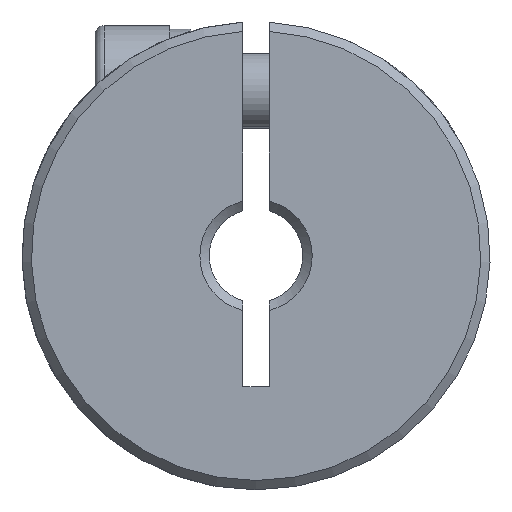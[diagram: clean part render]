
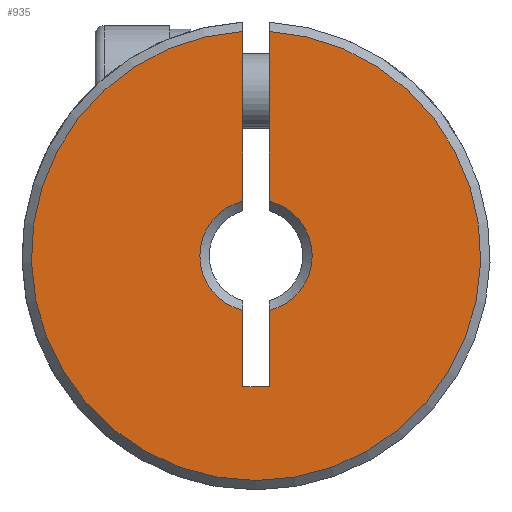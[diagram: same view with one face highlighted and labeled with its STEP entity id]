
A CAD part, front view. The second image highlights one B-rep face of the part: STEP entity #935.
In plain terms, the highlighted planar face has unit normal (0, -1, 0).
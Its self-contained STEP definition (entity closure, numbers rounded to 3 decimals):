
#12 = EDGE_CURVE ( 'NONE', #2814, #3060, #1452, .T. ) ;
#69 = CARTESIAN_POINT ( 'NONE',  ( 0., 0.25, 0. ) ) ;
#125 = CARTESIAN_POINT ( 'NONE',  ( 0.7, 0.25, -7. ) ) ;
#134 = VECTOR ( 'NONE', #1430, 1000. ) ;
#156 = DIRECTION ( 'NONE',  ( 0., 0., -1. ) ) ;
#170 = CARTESIAN_POINT ( 'NONE',  ( -0.7, 0.25, -7. ) ) ;
#177 = ORIENTED_EDGE ( 'NONE', *, *, #12, .F. ) ;
#220 = VERTEX_POINT ( 'NONE', #2874 ) ;
#256 = ORIENTED_EDGE ( 'NONE', *, *, #2683, .F. ) ;
#267 = ORIENTED_EDGE ( 'NONE', *, *, #3004, .T. ) ;
#318 = VERTEX_POINT ( 'NONE', #3161 ) ;
#450 = AXIS2_PLACEMENT_3D ( 'NONE', #3317, #2241, #1451 ) ;
#453 = DIRECTION ( 'NONE',  ( 0., 0., 1. ) ) ;
#634 = CIRCLE ( 'NONE', #3084, 12. ) ;
#691 = ORIENTED_EDGE ( 'NONE', *, *, #1154, .F. ) ;
#709 = VERTEX_POINT ( 'NONE', #1620 ) ;
#768 = EDGE_CURVE ( 'NONE', #1145, #709, #2170, .T. ) ;
#890 = DIRECTION ( 'NONE',  ( 0., 1., 0. ) ) ;
#935 = ADVANCED_FACE ( 'NONE', ( #1092 ), #1831, .F. ) ;
#955 = VECTOR ( 'NONE', #2707, 1000. ) ;
#981 = CARTESIAN_POINT ( 'NONE',  ( 0.7, 0.25, -2.917 ) ) ;
#1033 = ORIENTED_EDGE ( 'NONE', *, *, #2457, .F. ) ;
#1080 = VECTOR ( 'NONE', #156, 1000. ) ;
#1092 = FACE_OUTER_BOUND ( 'NONE', #3355, .T. ) ;
#1145 = VERTEX_POINT ( 'NONE', #1445 ) ;
#1152 = DIRECTION ( 'NONE',  ( 0., 0., 1. ) ) ;
#1154 = EDGE_CURVE ( 'NONE', #709, #2309, #2988, .T. ) ;
#1314 = CARTESIAN_POINT ( 'NONE',  ( 12.5, 0.25, -50. ) ) ;
#1323 = DIRECTION ( 'NONE',  ( 0., 0., 1. ) ) ;
#1430 = DIRECTION ( 'NONE',  ( 0., 0., 1. ) ) ;
#1445 = CARTESIAN_POINT ( 'NONE',  ( -0.7, 0.25, -7. ) ) ;
#1451 = DIRECTION ( 'NONE',  ( 0., 0., 1. ) ) ;
#1452 = LINE ( 'NONE', #125, #134 ) ;
#1461 = LINE ( 'NONE', #170, #1080 ) ;
#1493 = EDGE_CURVE ( 'NONE', #220, #3060, #634, .T. ) ;
#1506 = CARTESIAN_POINT ( 'NONE',  ( 0.7, 0.25, -7. ) ) ;
#1528 = VECTOR ( 'NONE', #2332, 1000. ) ;
#1533 = CARTESIAN_POINT ( 'NONE',  ( -0.7, 0.25, 2.917 ) ) ;
#1550 = EDGE_CURVE ( 'NONE', #318, #1677, #2201, .T. ) ;
#1620 = CARTESIAN_POINT ( 'NONE',  ( 0.7, 0.25, -7. ) ) ;
#1662 = CARTESIAN_POINT ( 'NONE',  ( 0.7, 0.25, 11.98 ) ) ;
#1677 = VERTEX_POINT ( 'NONE', #1533 ) ;
#1831 = PLANE ( 'NONE',  #3037 ) ;
#1840 = CIRCLE ( 'NONE', #2386, 3. ) ;
#1961 = DIRECTION ( 'NONE',  ( 0., -1., 0. ) ) ;
#2050 = CARTESIAN_POINT ( 'NONE',  ( 0.7, 0.25, -7. ) ) ;
#2170 = LINE ( 'NONE', #2050, #1528 ) ;
#2183 = ORIENTED_EDGE ( 'NONE', *, *, #768, .F. ) ;
#2201 = CIRCLE ( 'NONE', #450, 3. ) ;
#2241 = DIRECTION ( 'NONE',  ( 0., 1., 0. ) ) ;
#2309 = VERTEX_POINT ( 'NONE', #981 ) ;
#2332 = DIRECTION ( 'NONE',  ( 1., 0., 0. ) ) ;
#2386 = AXIS2_PLACEMENT_3D ( 'NONE', #69, #890, #3023 ) ;
#2428 = CARTESIAN_POINT ( 'NONE',  ( -0.7, 0.25, -7. ) ) ;
#2457 = EDGE_CURVE ( 'NONE', #318, #1145, #3413, .T. ) ;
#2610 = CARTESIAN_POINT ( 'NONE',  ( 0.7, 0.25, 2.917 ) ) ;
#2683 = EDGE_CURVE ( 'NONE', #220, #1677, #1461, .T. ) ;
#2707 = DIRECTION ( 'NONE',  ( 0., 0., -1. ) ) ;
#2814 = VERTEX_POINT ( 'NONE', #2610 ) ;
#2874 = CARTESIAN_POINT ( 'NONE',  ( -0.7, 0.25, 11.98 ) ) ;
#2901 = VECTOR ( 'NONE', #453, 1000. ) ;
#2988 = LINE ( 'NONE', #1506, #2901 ) ;
#3004 = EDGE_CURVE ( 'NONE', #2814, #2309, #1840, .T. ) ;
#3023 = DIRECTION ( 'NONE',  ( 0., 0., 1. ) ) ;
#3037 = AXIS2_PLACEMENT_3D ( 'NONE', #1314, #3188, #1323 ) ;
#3060 = VERTEX_POINT ( 'NONE', #1662 ) ;
#3084 = AXIS2_PLACEMENT_3D ( 'NONE', #3300, #1961, #1152 ) ;
#3155 = ORIENTED_EDGE ( 'NONE', *, *, #1493, .T. ) ;
#3159 = ORIENTED_EDGE ( 'NONE', *, *, #1550, .T. ) ;
#3161 = CARTESIAN_POINT ( 'NONE',  ( -0.7, 0.25, -2.917 ) ) ;
#3188 = DIRECTION ( 'NONE',  ( 0., 1., 0. ) ) ;
#3300 = CARTESIAN_POINT ( 'NONE',  ( 0., 0.25, 0. ) ) ;
#3317 = CARTESIAN_POINT ( 'NONE',  ( 0., 0.25, 0. ) ) ;
#3355 = EDGE_LOOP ( 'NONE', ( #177, #267, #691, #2183, #1033, #3159, #256, #3155 ) ) ;
#3413 = LINE ( 'NONE', #2428, #955 ) ;
